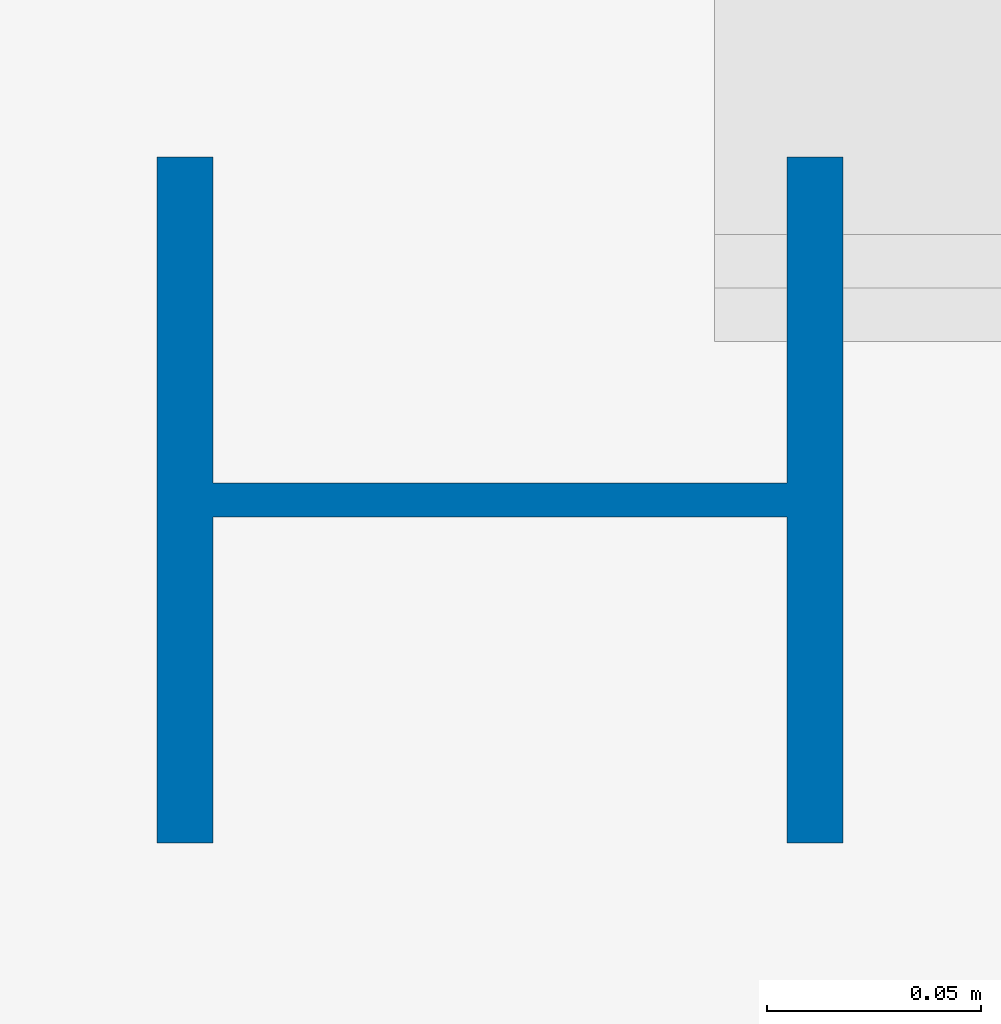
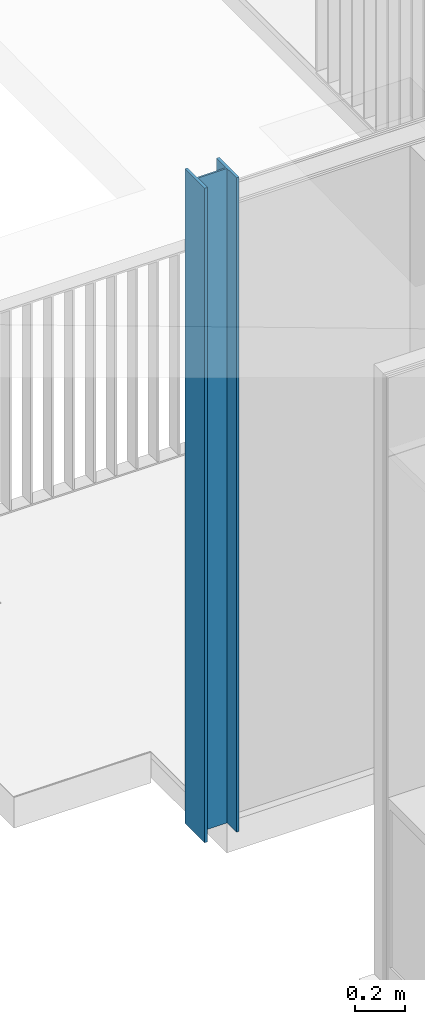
# One storey, part 1 of 25: 1 column.
"""IFC2X3 building model written with IfcOpenShell, lengths in millimetres."""

from ifc_helpers import new_model, entity, si_unit, converted_unit, derived_unit, money_unit, direction, frame, origin_with_axes, place, context, subcontext, project, spatial, faceted_brep, material, type_object, element, save


model = new_model("IFC2X3")

# Units and contexts
model_context = context("Model", 3, precision=0.01, world=origin_with_axes(), true_north=direction((0.0, 1.0)))
body_context = subcontext(model_context, "Body", "Model", "MODEL_VIEW")
ifc_project = project(units=[si_unit("LENGTHUNIT", "METRE", prefix="MILLI"), si_unit("AREAUNIT", "SQUARE_METRE"), si_unit("VOLUMEUNIT", "CUBIC_METRE"), converted_unit("PLANEANGLEUNIT", "DEGREE", entity("IfcPlaneAngleMeasure", 0.0174532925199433), si_unit("PLANEANGLEUNIT", "RADIAN"), dimensions=[0, 0, 0, 0, 0, 0, 0]), money_unit("EUR"), converted_unit("TIMEUNIT", "Year", entity("IfcTimeMeasure", 31557600.0), si_unit("TIMEUNIT", "SECOND"), dimensions=[0, 0, 1, 0, 0, 0, 0]), si_unit("MASSUNIT", "GRAM", prefix="KILO"), si_unit("THERMODYNAMICTEMPERATUREUNIT", "DEGREE_CELSIUS"), si_unit("LUMINOUSINTENSITYUNIT", "LUMEN"), si_unit("ENERGYUNIT", "JOULE", prefix="MEGA"), derived_unit("THERMALCONDUCTANCEUNIT", [(si_unit("POWERUNIT", "WATT"), 1), (si_unit("LENGTHUNIT", "METRE"), -1), (si_unit("THERMODYNAMICTEMPERATUREUNIT", "KELVIN"), -1)]), derived_unit("SPECIFICHEATCAPACITYUNIT", [(si_unit("ENERGYUNIT", "JOULE"), 1), (si_unit("MASSUNIT", "GRAM", prefix="KILO"), -1), (si_unit("THERMODYNAMICTEMPERATUREUNIT", "KELVIN"), -1)]), derived_unit("MASSDENSITYUNIT", [(si_unit("MASSUNIT", "GRAM", prefix="KILO"), 1), (si_unit("VOLUMEUNIT", "CUBIC_METRE"), -1)])], contexts=[model_context])

# Site, building, storey
site_placement = place(None, origin_with_axes())
site = spatial("IfcSite", under=ifc_project, at=site_placement, Name="<site naam>", CompositionType="ELEMENT")
building_placement = place(site_placement, origin_with_axes())
building = spatial("IfcBuilding", under=site, at=building_placement, Name="<Naam gebouw>", CompositionType="ELEMENT")
storey_placement = place(building_placement, frame((0.0, 0.0, 9563.0), z_axis=(0.0, 0.0, 1.0), x_axis=(1.0, 0.0, 0.0)))
storey = spatial("IfcBuildingStorey", under=building, at=storey_placement, Name="03 3e tussenverdieping", CompositionType="ELEMENT", Elevation=9563.0)

# Column
ifc_material = material(Name="staal C")
column_type = type_object("IfcColumnType", Name="Profiel H algemeen 160 x 160", PredefinedType="COLUMN")
column_placement = place(storey_placement, frame((52084.99981564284, 5897.99999853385, 0.0), z_axis=(0.0, 0.0, 1.0), x_axis=(0.0, 1.0, 0.0)))
element("IfcColumn", 1, at=column_placement, inside=storey, type_object=column_type, material=ifc_material, Name="28_Kolom_Profiel", ObjectType="COLUMN", context=body_context, shape_type="Brep", body=[
    faceted_brep([(-80.00013661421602, -80.00022122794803, 3206.999999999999), (-80.00013661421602, -80.00022122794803, 0.0), (80.00013661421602, -80.00022122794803, 0.0), (80.00013661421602, -80.00022122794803, 3206.999999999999), (-80.00012089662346, -66.99965254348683, 3206.999999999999), (-80.00012089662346, -66.99965254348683, 0.0), (-4.000000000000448, -66.99965254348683, 0.0), (-3.999999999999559, 66.99965254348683, 0.0), (-80.00012089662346, 66.99965254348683, 0.0), (-80.00013661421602, 80.00022122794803, 0.0), (80.00013661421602, 80.00022122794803, 0.0), (80.00012089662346, 66.99965254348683, 0.0), (4.000000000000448, 66.99965254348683, 0.0), (3.999999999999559, -66.99965254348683, 0.0), (80.00012089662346, -66.99965254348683, 0.0), (80.00012089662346, -66.99965254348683, 3206.999999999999), (3.999999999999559, -66.99965254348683, 3206.999999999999), (4.000000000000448, 66.99965254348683, 3206.999999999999), (80.00012089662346, 66.99965254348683, 3206.999999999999), (80.00013661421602, 80.00022122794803, 3206.999999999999), (-80.00013661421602, 80.00022122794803, 3206.999999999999), (-80.00012089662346, 66.99965254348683, 3206.999999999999), (-3.999999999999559, 66.99965254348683, 3206.999999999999), (-4.000000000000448, -66.99965254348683, 3206.999999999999)], [[[0, 1, 2, 3]], [[4, 5, 1, 0]], [[2, 1, 5, 6, 7, 8, 9, 10, 11, 12, 13, 14]], [[3, 2, 14, 15]], [[4, 0, 3, 15, 16, 17, 18, 19, 20, 21, 22, 23]], [[23, 6, 5, 4]], [[22, 7, 6, 23]], [[21, 8, 7, 22]], [[20, 9, 8, 21]], [[19, 10, 9, 20]], [[18, 11, 10, 19]], [[17, 12, 11, 18]], [[16, 13, 12, 17]], [[15, 14, 13, 16]]]),
])

save(model, "model.ifc")
